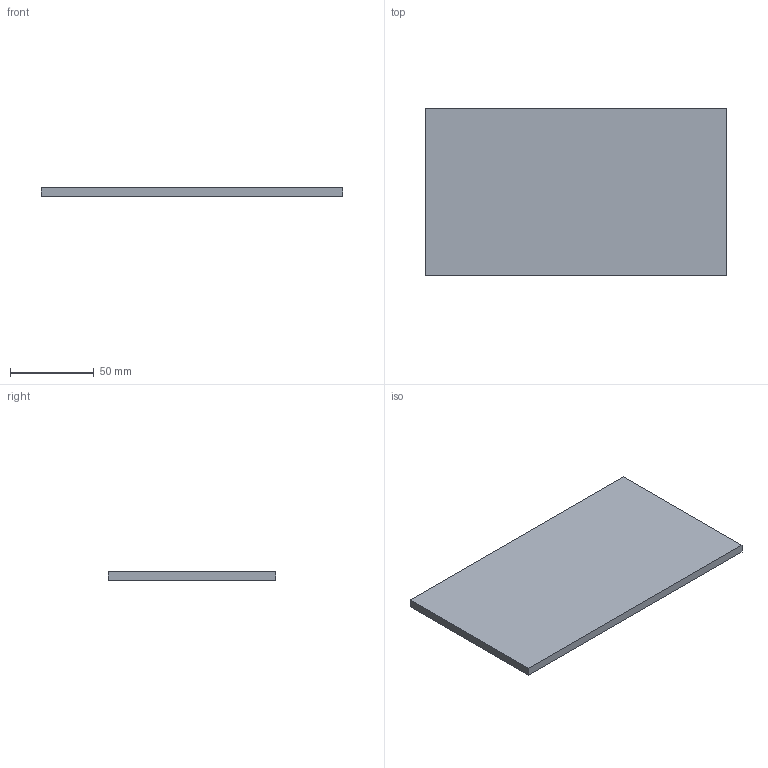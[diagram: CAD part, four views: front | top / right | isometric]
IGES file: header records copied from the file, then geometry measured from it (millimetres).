
Global section: file name: Drawing10; native system: AutoCAD 2021 - 简体中文 (Simplified Chinese),62HAuto; preprocessor: desk Translation Framework DWG producer (atf_dwg_producer); organization: unknown; date: 20250108.110043; units: millimetre
Bounding box: 180 x 100 x 5 mm (x, y, z)
Volume: 90000 mm3; surface area: 38800 mm2
Topology: 1 solids, 1 shells, 6 faces, 12 edges, 8 vertices
Faces by surface type: bspline 6
